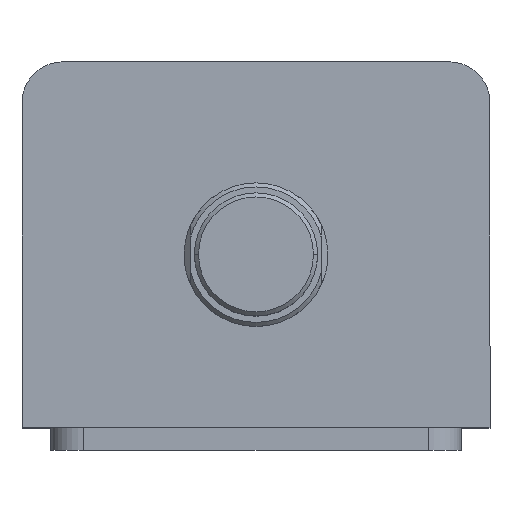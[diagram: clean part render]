
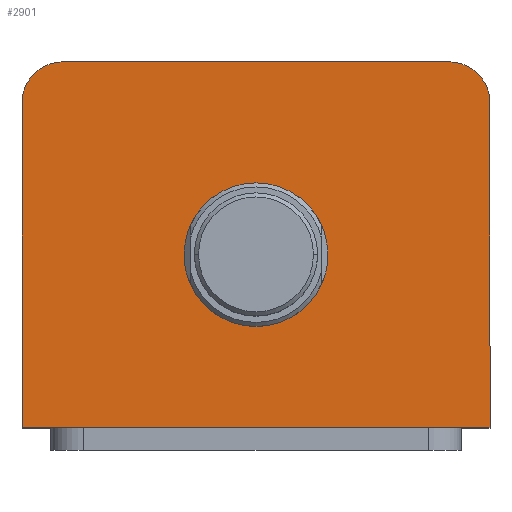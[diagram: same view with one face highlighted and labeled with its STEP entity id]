
A CAD part, top view. The second image highlights one B-rep face of the part: STEP entity #2901.
In plain terms, the highlighted planar face has unit normal (0, 0, 1).
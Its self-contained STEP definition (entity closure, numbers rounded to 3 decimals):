
#101 = CARTESIAN_POINT ( 'NONE',  ( 0., -2.5, 182. ) ) ;
#102 = DIRECTION ( 'NONE',  ( 0., 0., 1. ) ) ;
#103 = DIRECTION ( 'NONE',  ( 1., 0., 0. ) ) ;
#104 = CARTESIAN_POINT ( 'NONE',  ( -57., -44.5, 182. ) ) ;
#105 = CARTESIAN_POINT ( 'NONE',  ( 0., -2.5, 182. ) ) ;
#412 = FACE_BOUND ( 'NONE', #2331, .T. ) ;
#419 = FACE_OUTER_BOUND ( 'NONE', #2336, .T. ) ;
#450 = LINE ( 'NONE', #2392, #453 ) ;
#453 = VECTOR ( 'NONE', #2393, 1000. ) ;
#466 = CIRCLE ( 'NONE', #3800, 10. ) ;
#479 = CIRCLE ( 'NONE', #3756, 10. ) ;
#485 = LINE ( 'NONE', #2461, #488 ) ;
#488 = VECTOR ( 'NONE', #2462, 1000. ) ;
#668 = CIRCLE ( 'NONE', #3335, 17.5 ) ;
#671 = CIRCLE ( 'NONE', #3336, 17.5 ) ;
#677 = LINE ( 'NONE', #104, #684 ) ;
#684 = VECTOR ( 'NONE', #3068, 1000. ) ;
#919 = CARTESIAN_POINT ( 'NONE',  ( 57., 34.5, 182. ) ) ;
#931 = CARTESIAN_POINT ( 'NONE',  ( 47., 44.5, 182. ) ) ;
#934 = CARTESIAN_POINT ( 'NONE',  ( -47., 44.5, 182. ) ) ;
#943 = CARTESIAN_POINT ( 'NONE',  ( -57., 34.5, 182. ) ) ;
#1011 = VERTEX_POINT ( 'NONE', #919 ) ;
#1023 = VERTEX_POINT ( 'NONE', #931 ) ;
#1026 = VERTEX_POINT ( 'NONE', #934 ) ;
#1035 = VERTEX_POINT ( 'NONE', #943 ) ;
#1223 = CARTESIAN_POINT ( 'NONE',  ( 57., 44.5, 182. ) ) ;
#1224 = DIRECTION ( 'NONE',  ( 0., 1., 0. ) ) ;
#1429 = LINE ( 'NONE', #1223, #1430 ) ;
#1430 = VECTOR ( 'NONE', #1224, 1000. ) ;
#1716 = EDGE_CURVE ( 'NONE', #1928, #2907, #668, .T. ) ;
#1718 = EDGE_CURVE ( 'NONE', #2907, #1928, #671, .T. ) ;
#1725 = EDGE_CURVE ( 'NONE', #1782, #1933, #677, .T. ) ;
#1782 = VERTEX_POINT ( 'NONE', #3096 ) ;
#1928 = VERTEX_POINT ( 'NONE', #3111 ) ;
#1933 = VERTEX_POINT ( 'NONE', #3106 ) ;
#2241 = ORIENTED_EDGE ( 'NONE', *, *, #1718, .F. ) ;
#2242 = ORIENTED_EDGE ( 'NONE', *, *, #1716, .F. ) ;
#2243 = ORIENTED_EDGE ( 'NONE', *, *, #3540, .T. ) ;
#2244 = ORIENTED_EDGE ( 'NONE', *, *, #3562, .T. ) ;
#2245 = ORIENTED_EDGE ( 'NONE', *, *, #3566, .T. ) ;
#2246 = ORIENTED_EDGE ( 'NONE', *, *, #1725, .T. ) ;
#2247 = ORIENTED_EDGE ( 'NONE', *, *, #3650, .T. ) ;
#2248 = ORIENTED_EDGE ( 'NONE', *, *, #3553, .T. ) ;
#2331 = EDGE_LOOP ( 'NONE', ( #2241, #2242 ) ) ;
#2336 = EDGE_LOOP ( 'NONE', ( #2243, #2244, #2245, #2246, #2247, #2248 ) ) ;
#2392 = CARTESIAN_POINT ( 'NONE',  ( -57., 44.5, 182. ) ) ;
#2393 = DIRECTION ( 'NONE',  ( -1., 0., 0. ) ) ;
#2424 = CARTESIAN_POINT ( 'NONE',  ( 47., 34.5, 182. ) ) ;
#2425 = DIRECTION ( 'NONE',  ( 0., 0., 1. ) ) ;
#2426 = DIRECTION ( 'NONE',  ( 1., 0., 0. ) ) ;
#2451 = CARTESIAN_POINT ( 'NONE',  ( -47., 34.5, 182. ) ) ;
#2452 = DIRECTION ( 'NONE',  ( 0., 0., 1. ) ) ;
#2453 = DIRECTION ( 'NONE',  ( 1., 0., 0. ) ) ;
#2461 = CARTESIAN_POINT ( 'NONE',  ( -57., 44.5, 182. ) ) ;
#2462 = DIRECTION ( 'NONE',  ( 0., -1., 0. ) ) ;
#2551 = PLANE ( 'NONE',  #3230 ) ;
#2554 = CARTESIAN_POINT ( 'NONE',  ( 0., 0., 182. ) ) ;
#2560 = DIRECTION ( 'NONE',  ( 0., 0., 1. ) ) ;
#2561 = DIRECTION ( 'NONE',  ( 1., 0., 0. ) ) ;
#2577 = CARTESIAN_POINT ( 'NONE',  ( 17.5, -2.5, 182. ) ) ;
#2901 = ADVANCED_FACE ( 'NONE', ( #412, #419 ), #2551, .T. ) ;
#2907 = VERTEX_POINT ( 'NONE', #2577 ) ;
#3049 = DIRECTION ( 'NONE',  ( 0., 0., 1. ) ) ;
#3050 = DIRECTION ( 'NONE',  ( 1., 0., 0. ) ) ;
#3068 = DIRECTION ( 'NONE',  ( 1., 0., 0. ) ) ;
#3096 = CARTESIAN_POINT ( 'NONE',  ( -57., -44.5, 182. ) ) ;
#3106 = CARTESIAN_POINT ( 'NONE',  ( 57., -44.5, 182. ) ) ;
#3111 = CARTESIAN_POINT ( 'NONE',  ( -17.5, -2.5, 182. ) ) ;
#3230 = AXIS2_PLACEMENT_3D ( 'NONE', #2554, #2560, #2561 ) ;
#3335 = AXIS2_PLACEMENT_3D ( 'NONE', #101, #102, #103 ) ;
#3336 = AXIS2_PLACEMENT_3D ( 'NONE', #105, #3049, #3050 ) ;
#3540 = EDGE_CURVE ( 'NONE', #1023, #1026, #450, .T. ) ;
#3553 = EDGE_CURVE ( 'NONE', #1011, #1023, #466, .T. ) ;
#3562 = EDGE_CURVE ( 'NONE', #1026, #1035, #479, .T. ) ;
#3566 = EDGE_CURVE ( 'NONE', #1035, #1782, #485, .T. ) ;
#3650 = EDGE_CURVE ( 'NONE', #1933, #1011, #1429, .T. ) ;
#3756 = AXIS2_PLACEMENT_3D ( 'NONE', #2451, #2452, #2453 ) ;
#3800 = AXIS2_PLACEMENT_3D ( 'NONE', #2424, #2425, #2426 ) ;
